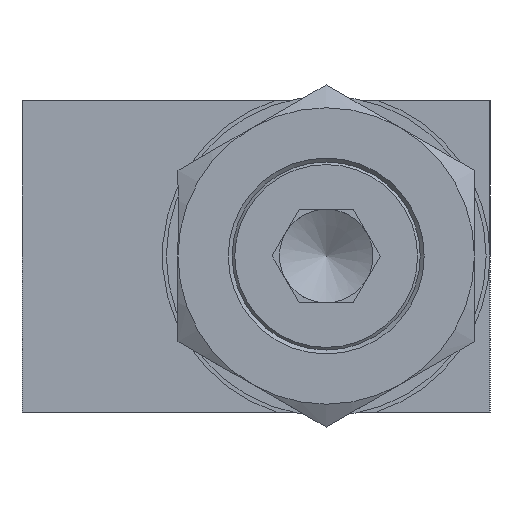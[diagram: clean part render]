
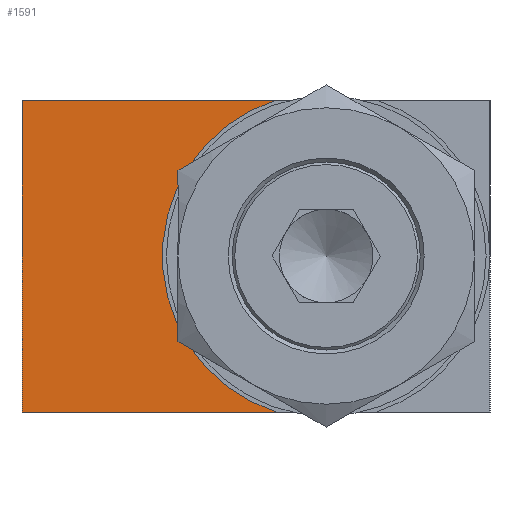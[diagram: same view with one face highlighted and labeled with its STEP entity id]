
A CAD part, left-side view. The second image highlights one B-rep face of the part: STEP entity #1591.
In plain terms, the highlighted planar face has unit normal (-1, 0, 0).
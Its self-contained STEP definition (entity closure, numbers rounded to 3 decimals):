
#94=PLANE('',#1752);
#176=FACE_OUTER_BOUND('',#278,.T.);
#278=EDGE_LOOP('',(#1125,#1126,#1127,#1128));
#397=LINE('',#2488,#474);
#405=LINE('',#2520,#482);
#407=LINE('',#2523,#484);
#474=VECTOR('',#1973,10.);
#482=VECTOR('',#2011,10.);
#484=VECTOR('',#2015,10.);
#554=CIRCLE('',#1753,21.);
#652=VERTEX_POINT('',#2476);
#657=VERTEX_POINT('',#2486);
#665=VERTEX_POINT('',#2517);
#666=VERTEX_POINT('',#2519);
#820=EDGE_CURVE('',#652,#657,#397,.T.);
#836=EDGE_CURVE('',#666,#665,#405,.T.);
#838=EDGE_CURVE('',#666,#657,#407,.T.);
#843=EDGE_CURVE('',#665,#652,#554,.T.);
#1125=ORIENTED_EDGE('',*,*,#843,.T.);
#1126=ORIENTED_EDGE('',*,*,#820,.T.);
#1127=ORIENTED_EDGE('',*,*,#838,.F.);
#1128=ORIENTED_EDGE('',*,*,#836,.T.);
#1591=ADVANCED_FACE('',(#176),#94,.T.);
#1752=AXIS2_PLACEMENT_3D('',#2532,#2025,#2026);
#1753=AXIS2_PLACEMENT_3D('',#2533,#2027,#2028);
#1973=DIRECTION('',(0.,1.,0.));
#2011=DIRECTION('',(0.,-1.,0.));
#2015=DIRECTION('',(0.,0.,1.));
#2025=DIRECTION('center_axis',(-1.,0.,0.));
#2026=DIRECTION('ref_axis',(0.,0.,1.));
#2027=DIRECTION('center_axis',(1.,0.,0.));
#2028=DIRECTION('ref_axis',(0.,0.,1.));
#2476=CARTESIAN_POINT('',(-50.,2.403,20.));
#2486=CARTESIAN_POINT('',(-50.,35.,20.));
#2488=CARTESIAN_POINT('',(-50.,35.,20.));
#2517=CARTESIAN_POINT('',(-50.,2.403,-20.));
#2519=CARTESIAN_POINT('',(-50.,35.,-20.));
#2520=CARTESIAN_POINT('',(-50.,35.,-20.));
#2523=CARTESIAN_POINT('',(-50.,35.,0.));
#2532=CARTESIAN_POINT('Origin',(-50.,-25.,0.));
#2533=CARTESIAN_POINT('Origin',(-50.,-4.,0.));
